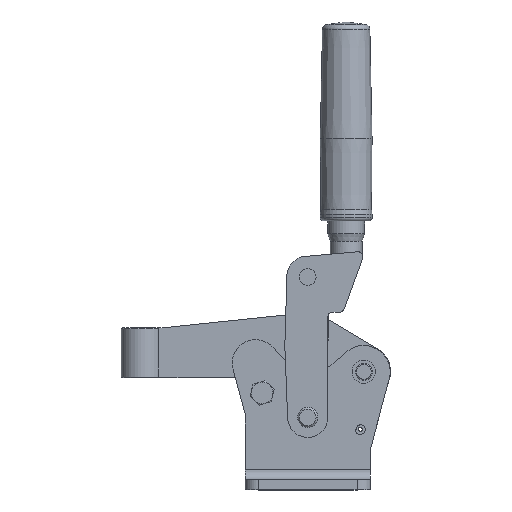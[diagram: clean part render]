
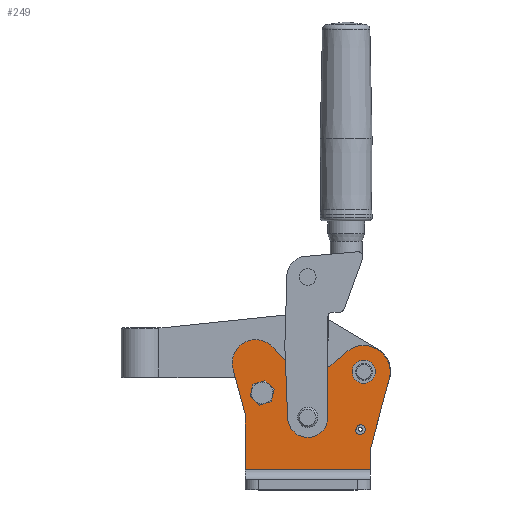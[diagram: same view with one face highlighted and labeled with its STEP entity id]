
A CAD part, top view. The second image highlights one B-rep face of the part: STEP entity #249.
In plain terms, the highlighted planar face has unit normal (0, 0, 1).
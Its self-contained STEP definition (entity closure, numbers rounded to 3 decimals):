
#249 = ADVANCED_FACE( '', ( #451, #452, #453, #454, #455 ), #456, .F. );
#451 = FACE_BOUND( '', #931, .T. );
#452 = FACE_OUTER_BOUND( '', #932, .T. );
#453 = FACE_BOUND( '', #933, .T. );
#454 = FACE_BOUND( '', #934, .T. );
#455 = FACE_BOUND( '', #935, .T. );
#456 = PLANE( '', #936 );
#931 = EDGE_LOOP( '', ( #1441 ) );
#932 = EDGE_LOOP( '', ( #1442, #1443, #1444, #1445, #1446, #1447, #1448, #1449, #1450, #1451 ) );
#933 = EDGE_LOOP( '', ( #1452 ) );
#934 = EDGE_LOOP( '', ( #1453 ) );
#935 = EDGE_LOOP( '', ( #1454, #1455, #1456 ) );
#936 = AXIS2_PLACEMENT_3D( '', #1457, #1458, #1459 );
#1441 = ORIENTED_EDGE( '', *, *, #2767, .F. );
#1442 = ORIENTED_EDGE( '', *, *, #2768, .T. );
#1443 = ORIENTED_EDGE( '', *, *, #2769, .T. );
#1444 = ORIENTED_EDGE( '', *, *, #2770, .F. );
#1445 = ORIENTED_EDGE( '', *, *, #2771, .T. );
#1446 = ORIENTED_EDGE( '', *, *, #2772, .T. );
#1447 = ORIENTED_EDGE( '', *, *, #2773, .T. );
#1448 = ORIENTED_EDGE( '', *, *, #2774, .T. );
#1449 = ORIENTED_EDGE( '', *, *, #2775, .F. );
#1450 = ORIENTED_EDGE( '', *, *, #2776, .T. );
#1451 = ORIENTED_EDGE( '', *, *, #2777, .T. );
#1452 = ORIENTED_EDGE( '', *, *, #2778, .F. );
#1453 = ORIENTED_EDGE( '', *, *, #2779, .F. );
#1454 = ORIENTED_EDGE( '', *, *, #2780, .F. );
#1455 = ORIENTED_EDGE( '', *, *, #2781, .F. );
#1456 = ORIENTED_EDGE( '', *, *, #2782, .T. );
#1457 = CARTESIAN_POINT( '', ( 90., 90., 12. ) );
#1458 = DIRECTION( '', ( 0., 0., -1. ) );
#1459 = DIRECTION( '', ( 0., 1., 0. ) );
#2767 = EDGE_CURVE( '', #3188, #3188, #3189, .F. );
#2768 = EDGE_CURVE( '', #3190, #3191, #3192, .T. );
#2769 = EDGE_CURVE( '', #3191, #3193, #3194, .T. );
#2770 = EDGE_CURVE( '', #3195, #3193, #3196, .T. );
#2771 = EDGE_CURVE( '', #3195, #3197, #3198, .T. );
#2772 = EDGE_CURVE( '', #3197, #3199, #3200, .T. );
#2773 = EDGE_CURVE( '', #3199, #3201, #3202, .F. );
#2774 = EDGE_CURVE( '', #3201, #3203, #3204, .T. );
#2775 = EDGE_CURVE( '', #3205, #3203, #3206, .F. );
#2776 = EDGE_CURVE( '', #3205, #3207, #3208, .T. );
#2777 = EDGE_CURVE( '', #3207, #3190, #3209, .F. );
#2778 = EDGE_CURVE( '', #3210, #3210, #3211, .F. );
#2779 = EDGE_CURVE( '', #3212, #3212, #3213, .T. );
#2780 = EDGE_CURVE( '', #3214, #3215, #3216, .F. );
#2781 = EDGE_CURVE( '', #3217, #3214, #3218, .F. );
#2782 = EDGE_CURVE( '', #3217, #3215, #3219, .T. );
#3188 = VERTEX_POINT( '', #3944 );
#3189 = CIRCLE( '', #3945, 6. );
#3190 = VERTEX_POINT( '', #3946 );
#3191 = VERTEX_POINT( '', #3947 );
#3192 = LINE( '', #3948, #3949 );
#3193 = VERTEX_POINT( '', #3950 );
#3194 = LINE( '', #3951, #3952 );
#3195 = VERTEX_POINT( '', #3953 );
#3196 = LINE( '', #3954, #3955 );
#3197 = VERTEX_POINT( '', #3956 );
#3198 = LINE( '', #3957, #3958 );
#3199 = VERTEX_POINT( '', #3959 );
#3200 = LINE( '', #3960, #3961 );
#3201 = VERTEX_POINT( '', #3962 );
#3202 = CIRCLE( '', #3963, 15.75 );
#3203 = VERTEX_POINT( '', #3964 );
#3204 = LINE( '', #3965, #3966 );
#3205 = VERTEX_POINT( '', #3967 );
#3206 = CIRCLE( '', #3968, 21. );
#3207 = VERTEX_POINT( '', #3969 );
#3208 = LINE( '', #3970, #3971 );
#3209 = CIRCLE( '', #3972, 14. );
#3210 = VERTEX_POINT( '', #3973 );
#3211 = CIRCLE( '', #3974, 6.12 );
#3212 = VERTEX_POINT( '', #3975 );
#3213 = CIRCLE( '', #3976, 7. );
#3214 = VERTEX_POINT( '', #3977 );
#3215 = VERTEX_POINT( '', #3978 );
#3216 = CIRCLE( '', #3979, 2.75 );
#3217 = VERTEX_POINT( '', #3980 );
#3218 = CIRCLE( '', #3981, 3. );
#3219 = LINE( '', #3982, #3983 );
#3944 = CARTESIAN_POINT( '', ( 37.5, 49.35, 12. ) );
#3945 = AXIS2_PLACEMENT_3D( '', #5039, #5040, #5041 );
#3946 = CARTESIAN_POINT( '', ( -7.173, 72.277, 12. ) );
#3947 = CARTESIAN_POINT( '', ( 0., 45.5, 12. ) );
#3948 = CARTESIAN_POINT( '', ( -5.097, 64.525, 12. ) );
#3949 = VECTOR( '', #5042, 1000. );
#3950 = CARTESIAN_POINT( '', ( 0., 12., 12. ) );
#3951 = CARTESIAN_POINT( '', ( 0., 90., 12. ) );
#3952 = VECTOR( '', #5043, 1000. );
#3953 = CARTESIAN_POINT( '', ( 75., 12., 12. ) );
#3954 = CARTESIAN_POINT( '', ( 90., 12., 12. ) );
#3955 = VECTOR( '', #5044, 1000. );
#3956 = CARTESIAN_POINT( '', ( 75., 24.35, 12. ) );
#3957 = CARTESIAN_POINT( '', ( 75., 90., 12. ) );
#3958 = VECTOR( '', #5045, 1000. );
#3959 = CARTESIAN_POINT( '', ( 86.313, 66.574, 12. ) );
#3960 = CARTESIAN_POINT( '', ( 92.417, 89.352, 12. ) );
#3961 = VECTOR( '', #5046, 1000. );
#3962 = CARTESIAN_POINT( '', ( 60.872, 82.627, 12. ) );
#3963 = AXIS2_PLACEMENT_3D( '', #5047, #5048, #5049 );
#3964 = CARTESIAN_POINT( '', ( 52.737, 75.68, 12. ) );
#3965 = CARTESIAN_POINT( '', ( 81.358, 100.121, 12. ) );
#3966 = VECTOR( '', #5050, 1000. );
#3967 = CARTESIAN_POINT( '', ( 23.322, 77.792, 12. ) );
#3968 = AXIS2_PLACEMENT_3D( '', #5051, #5052, #5053 );
#3969 = CARTESIAN_POINT( '', ( 16.869, 85.139, 12. ) );
#3970 = CARTESIAN_POINT( '', ( 46.307, 51.623, 12. ) );
#3971 = VECTOR( '', #5054, 1000. );
#3972 = AXIS2_PLACEMENT_3D( '', #5055, #5056, #5057 );
#3973 = CARTESIAN_POINT( '', ( 10.2, 64.12, 12. ) );
#3974 = AXIS2_PLACEMENT_3D( '', #5058, #5059, #5060 );
#3975 = CARTESIAN_POINT( '', ( 78.1, 70.65, 12. ) );
#3976 = AXIS2_PLACEMENT_3D( '', #5061, #5062, #5063 );
#3977 = CARTESIAN_POINT( '', ( 71.9, 36.2, 12. ) );
#3978 = CARTESIAN_POINT( '', ( 66.4, 36.2, 12. ) );
#3979 = AXIS2_PLACEMENT_3D( '', #5064, #5065, #5066 );
#3980 = CARTESIAN_POINT( '', ( 65.9, 36.2, 12. ) );
#3981 = AXIS2_PLACEMENT_3D( '', #5067, #5068, #5069 );
#3982 = CARTESIAN_POINT( '', ( 90., 36.2, 12. ) );
#3983 = VECTOR( '', #5070, 1000. );
#5039 = CARTESIAN_POINT( '', ( 37.5, 43.35, 12. ) );
#5040 = DIRECTION( '', ( 0., 0., -1. ) );
#5041 = DIRECTION( '', ( 0., 1., 0. ) );
#5042 = DIRECTION( '', ( 0.259, -0.966, 0. ) );
#5043 = DIRECTION( '', ( 0., -1., 0. ) );
#5044 = DIRECTION( '', ( -1., 0., 0. ) );
#5045 = DIRECTION( '', ( 0., 1., 0. ) );
#5046 = DIRECTION( '', ( 0.259, 0.966, 0. ) );
#5047 = CARTESIAN_POINT( '', ( 71.1, 70.65, 12. ) );
#5048 = DIRECTION( '', ( 0., 0., -1. ) );
#5049 = DIRECTION( '', ( 0., 1., 0. ) );
#5050 = DIRECTION( '', ( -0.76, -0.649, 0. ) );
#5051 = CARTESIAN_POINT( '', ( 39.1, 91.65, 12. ) );
#5052 = DIRECTION( '', ( 0., 0., -1. ) );
#5053 = DIRECTION( '', ( 0., 1., 0. ) );
#5054 = DIRECTION( '', ( -0.66, 0.751, 0. ) );
#5055 = CARTESIAN_POINT( '', ( 6.35, 75.9, 12. ) );
#5056 = DIRECTION( '', ( 0., 0., -1. ) );
#5057 = DIRECTION( '', ( 0., 1., 0. ) );
#5058 = CARTESIAN_POINT( '', ( 10.2, 58., 12. ) );
#5059 = DIRECTION( '', ( 0., 0., -1. ) );
#5060 = DIRECTION( '', ( 0., 1., 0. ) );
#5061 = CARTESIAN_POINT( '', ( 71.1, 70.65, 12. ) );
#5062 = DIRECTION( '', ( 0., 0., 1. ) );
#5063 = DIRECTION( '', ( 1., 0., 0. ) );
#5064 = CARTESIAN_POINT( '', ( 69.15, 36.2, 12. ) );
#5065 = DIRECTION( '', ( 0., 0., -1. ) );
#5066 = DIRECTION( '', ( 0., 1., 0. ) );
#5067 = CARTESIAN_POINT( '', ( 68.9, 36.2, 12. ) );
#5068 = DIRECTION( '', ( 0., 0., -1. ) );
#5069 = DIRECTION( '', ( 0., 1., 0. ) );
#5070 = DIRECTION( '', ( 1., 0., 0. ) );
